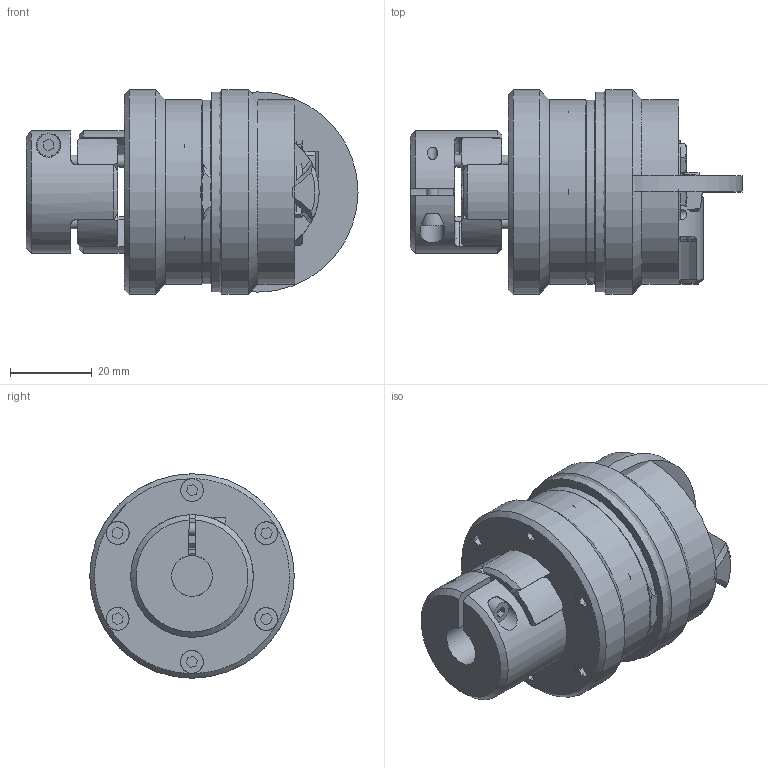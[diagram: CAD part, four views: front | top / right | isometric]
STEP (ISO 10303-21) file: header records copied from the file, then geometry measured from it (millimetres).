
FILE_DESCRIPTION( ( 'Unknown' ), '1' );
FILE_NAME( 'C:/Dokumente und Einstellungen/Sven/Desktop/hp kbk/E-KA/KBK EKA 14.stp', 'Unknown', ( 'Unknown' ), ( 'Unknown' ), 'XStep 1.0', 'Unknown', ' ' );
FILE_SCHEMA( ( 'automotive_design' ) );
Length unit declared in the file: millimetre
Products named in the file (17): Assem1; Assem2; Assem3; ball_bearing_-_61904_0_01; ball_bearing_-_61904_0_02; ball_bearing_-_61904_0_03; Zylinderschraube DIN 912; Stellring 10; Druckring 10; a_20; Flansch L-LL10; Elastomerflansch EK 10; Zahnkranz_14_Standard; KBE 2 - 14_Nabe; L-A-10 Grundteil; Druckring L-A-10; din_en_24017_m5x12
Bounding box: 81.2 x 50 x 50 mm (x, y, z)
Volume: 138049.8 mm3; surface area: 90977.4 mm2
Topology: 43 solids, 43 shells, 808 faces, 1800 edges, 1147 vertices
Faces by surface type: plane 337, cylinder 252, cone 175, torus 44
Full cylindrical faces by diameter (mm): 2 x4, 2.459 x16, 2.5 x2, 3 x17, 3.4 x12, 3.5 x2, 4.134 x12, 5 x7, 5.5 x21, 5.6 x12, 6 x2, 6.88 x7, 10 x6, 14 x2, 19 x2, 20 x7, 24 x4, 25 x2, 25.6 x6, 29 x2, 29.993 x2, 30 x2, 31.4 x6, 37 x7, 38 x2, 40 x4, 45 x2, 45.2 x2, 49 x2, 50 x2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
Entity records: 8473 total; most frequent: CARTESIAN_POINT 1808, DIRECTION 1437, ORIENTED_EDGE 1082, AXIS2_PLACEMENT_3D 659, EDGE_CURVE 541, EDGE_LOOP 471, VERTEX_POINT 398, FACE_OUTER_BOUND 377
